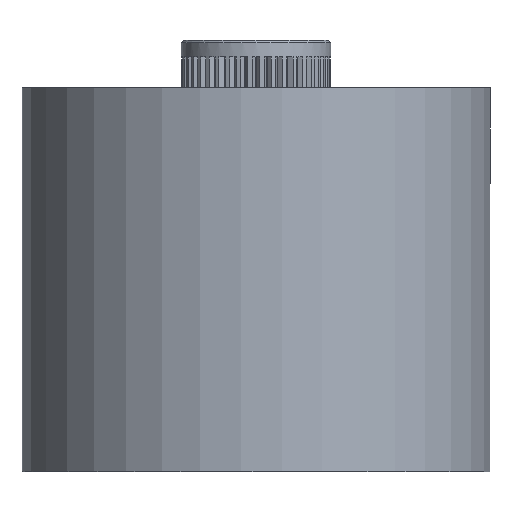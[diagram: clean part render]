
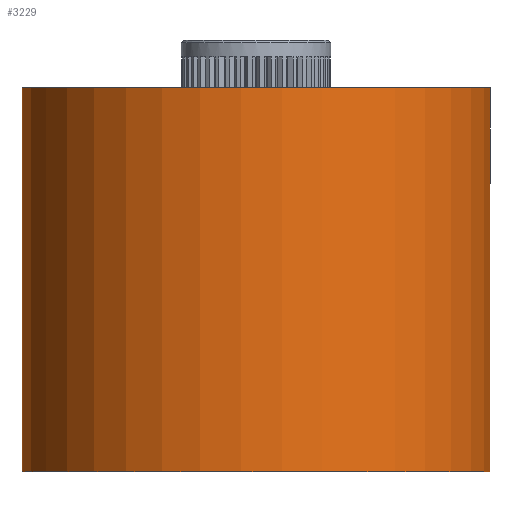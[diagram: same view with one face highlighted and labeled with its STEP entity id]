
A CAD part, front view. The second image highlights one B-rep face of the part: STEP entity #3229.
In plain terms, the highlighted cylindrical face has radius 12.5 mm (diameter 25 mm), a full revolution.
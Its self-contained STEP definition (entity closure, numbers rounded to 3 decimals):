
#2368=CARTESIAN_POINT('',(6.94,10.396,13.856));
#2369=VERTEX_POINT('',#2368);
#2370=CARTESIAN_POINT('',(0.,0.,13.856));
#2371=DIRECTION('',(0.0,0.0,-1.0));
#2372=DIRECTION('',(-0.555,-0.832,0.0));
#2373=AXIS2_PLACEMENT_3D('',#2370,#2371,#2372);
#2374=CIRCLE('',#2373,12.5);
#2375=EDGE_CURVE('',#2369,#2369,#2374,.F.);
#3210=CARTESIAN_POINT('',(0.,0.,-6.604));
#3211=DIRECTION('',(0.0,0.0,1.0));
#3212=DIRECTION('',(-0.555,-0.832,0.0));
#3213=AXIS2_PLACEMENT_3D('',#3210,#3211,#3212);
#3214=CYLINDRICAL_SURFACE('',#3213,12.5);
#3215=ORIENTED_EDGE('',*,*,#2375,.F.);
#3216=EDGE_LOOP('',(#3215));
#3217=FACE_OUTER_BOUND('',#3216,.T.);
#3218=CARTESIAN_POINT('',(6.94,10.396,-6.604));
#3219=VERTEX_POINT('',#3218);
#3220=CARTESIAN_POINT('',(0.,0.,-6.604));
#3221=DIRECTION('',(0.0,0.0,1.0));
#3222=DIRECTION('',(-0.555,-0.832,0.0));
#3223=AXIS2_PLACEMENT_3D('',#3220,#3221,#3222);
#3224=CIRCLE('',#3223,12.5);
#3225=EDGE_CURVE('',#3219,#3219,#3224,.F.);
#3226=ORIENTED_EDGE('',*,*,#3225,.F.);
#3227=EDGE_LOOP('',(#3226));
#3228=FACE_BOUND('',#3227,.T.);
#3229=ADVANCED_FACE('',(#3217,#3228),#3214,.T.);
